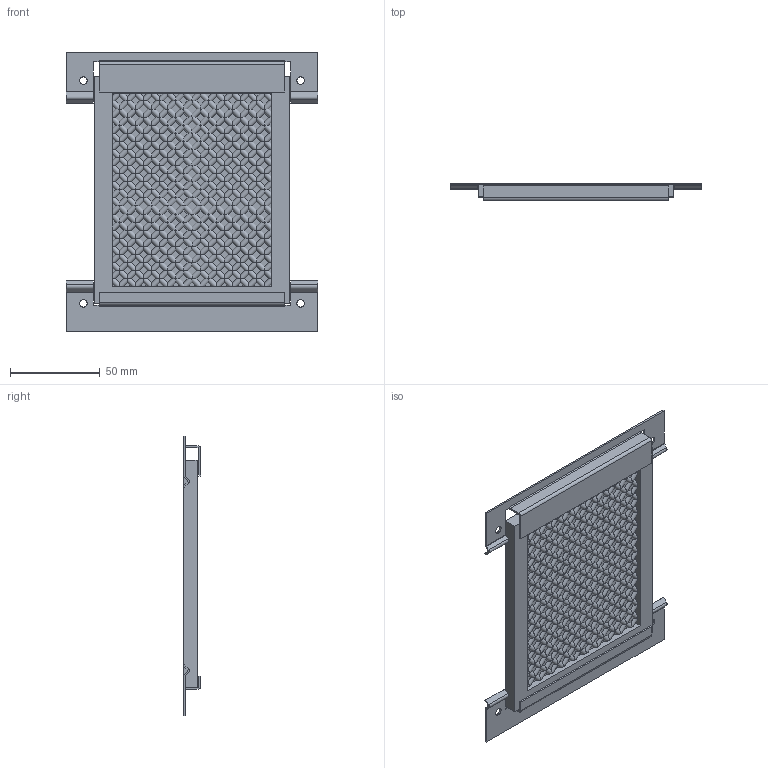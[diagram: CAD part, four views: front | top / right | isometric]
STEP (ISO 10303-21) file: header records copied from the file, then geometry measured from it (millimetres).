
FILE_DESCRIPTION((''),'2;1');
FILE_NAME('SCE-FLT44_ASM','2021-10-20T08:46:26',('mikek'),('SAGINAW CONTROL & ENGINEERING'),'CREO PARAMETRIC BY PTC INC, 2017260','CREO PARAMETRIC BY PTC INC, 2017260','');
FILE_SCHEMA(('AUTOMOTIVE_DESIGN { 1 0 10303 214 1 1 1 1 }'));
Length unit declared in the file: inch
Products named in the file (4): 116958; 116959; 102459; SCE-FLT44_ASM
Assembly tree (3 placements, depth 2):
  SCE-FLT44_ASM
    116958
    116959
    102459
Bounding box: 139.7 x 9.75 x 155.57 mm (x, y, z)
Volume: 59445.3 mm3; surface area: 54887.8 mm2
Topology: 3 solids, 3 shells, 1678 faces, 4478 edges, 2808 vertices
Faces by surface type: cylinder 992, plane 686
Entity records: 62620 total; most frequent: CARTESIAN_POINT 23947, ORIENTED_EDGE 8956, DIRECTION 5954, EDGE_CURVE 4478, VERTEX_POINT 2808, VECTOR 2356, LINE 2356, B_SPLINE_CURVE_WITH_KNOTS 2008
